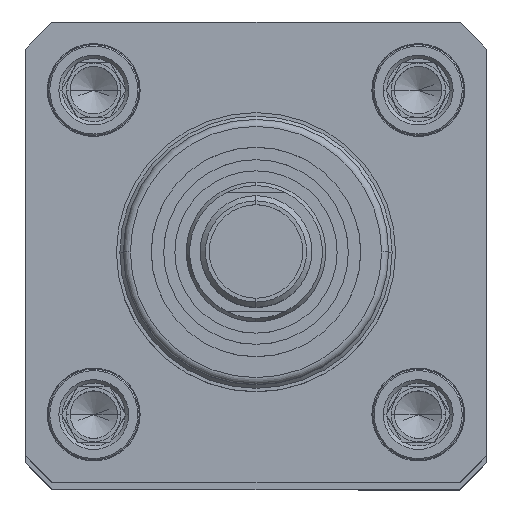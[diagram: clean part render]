
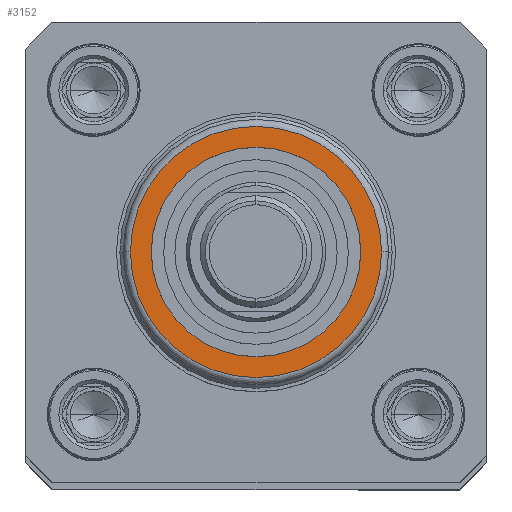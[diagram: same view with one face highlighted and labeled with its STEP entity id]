
A CAD part, top view. The second image highlights one B-rep face of the part: STEP entity #3152.
In plain terms, the highlighted planar face has unit normal (0, 0, 1).
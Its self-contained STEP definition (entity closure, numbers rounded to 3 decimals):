
#2826 = VERTEX_POINT ( 'NONE', #13686 ) ;
#2885 = EDGE_CURVE ( 'NONE', #2886, #2826, #13770, .T. ) ;
#2886 = VERTEX_POINT ( 'NONE', #13765 ) ;
#2900 = VERTEX_POINT ( 'NONE', #13810 ) ;
#2902 = EDGE_CURVE ( 'NONE', #2900, #2903, #13809, .T. ) ;
#2903 = VERTEX_POINT ( 'NONE', #13804 ) ;
#3125 = ORIENTED_EDGE ( 'NONE', *, *, #3126, .F. ) ;
#3126 = EDGE_CURVE ( 'NONE', #2903, #2900, #14281, .T. ) ;
#3127 = ORIENTED_EDGE ( 'NONE', *, *, #2902, .F. ) ;
#3128 = EDGE_LOOP ( 'NONE', ( #3129, #3130 ) ) ;
#3129 = ORIENTED_EDGE ( 'NONE', *, *, #2885, .T. ) ;
#3130 = ORIENTED_EDGE ( 'NONE', *, *, #3131, .T. ) ;
#3131 = EDGE_CURVE ( 'NONE', #2826, #2886, #14275, .T. ) ;
#3152 = ADVANCED_FACE ( 'NONE', ( #14359, #14358 ), #14351, .T. ) ;
#3153 = EDGE_LOOP ( 'NONE', ( #3125, #3127 ) ) ;
#13686 = CARTESIAN_POINT ( 'NONE',  ( -18., 0., 55.5 ) ) ;
#13765 = CARTESIAN_POINT ( 'NONE',  ( 18., 0., 55.5 ) ) ;
#13766 = DIRECTION ( 'NONE',  ( 1., 0., 0. ) ) ;
#13767 = DIRECTION ( 'NONE',  ( 0., 0., 1. ) ) ;
#13768 = CARTESIAN_POINT ( 'NONE',  ( 0., 0., 55.5 ) ) ;
#13769 = AXIS2_PLACEMENT_3D ( 'NONE', #13768, #13767, #13766 ) ;
#13770 = CIRCLE ( 'NONE', #13769, 18. ) ;
#13804 = CARTESIAN_POINT ( 'NONE',  ( 15.005, 0., 55.5 ) ) ;
#13805 = DIRECTION ( 'NONE',  ( 1., 0., 0. ) ) ;
#13806 = DIRECTION ( 'NONE',  ( 0., 0., 1. ) ) ;
#13807 = CARTESIAN_POINT ( 'NONE',  ( 0., 0., 55.5 ) ) ;
#13808 = AXIS2_PLACEMENT_3D ( 'NONE', #13807, #13806, #13805 ) ;
#13809 = CIRCLE ( 'NONE', #13808, 15.005 ) ;
#13810 = CARTESIAN_POINT ( 'NONE',  ( -15.005, 0., 55.5 ) ) ;
#14271 = DIRECTION ( 'NONE',  ( 1., 0., 0. ) ) ;
#14272 = DIRECTION ( 'NONE',  ( 0., 0., 1. ) ) ;
#14273 = CARTESIAN_POINT ( 'NONE',  ( 0., 0., 55.5 ) ) ;
#14274 = AXIS2_PLACEMENT_3D ( 'NONE', #14273, #14272, #14271 ) ;
#14275 = CIRCLE ( 'NONE', #14274, 18. ) ;
#14277 = DIRECTION ( 'NONE',  ( 1., 0., 0. ) ) ;
#14278 = DIRECTION ( 'NONE',  ( 0., 0., 1. ) ) ;
#14279 = CARTESIAN_POINT ( 'NONE',  ( 0., 0., 55.5 ) ) ;
#14280 = AXIS2_PLACEMENT_3D ( 'NONE', #14279, #14278, #14277 ) ;
#14281 = CIRCLE ( 'NONE', #14280, 15.005 ) ;
#14347 = DIRECTION ( 'NONE',  ( 1., 0., 0. ) ) ;
#14348 = DIRECTION ( 'NONE',  ( 0., 0., 1. ) ) ;
#14349 = CARTESIAN_POINT ( 'NONE',  ( 0., 0., 55.5 ) ) ;
#14350 = AXIS2_PLACEMENT_3D ( 'NONE', #14349, #14348, #14347 ) ;
#14351 = PLANE ( 'NONE',  #14350 ) ;
#14358 = FACE_OUTER_BOUND ( 'NONE', #3128, .T. ) ;
#14359 = FACE_BOUND ( 'NONE', #3153, .T. ) ;
